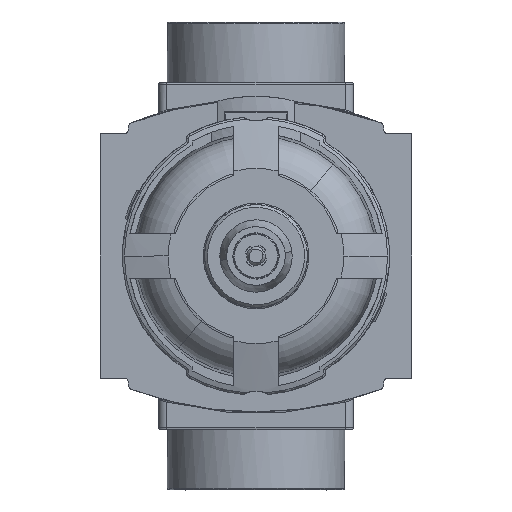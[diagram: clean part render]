
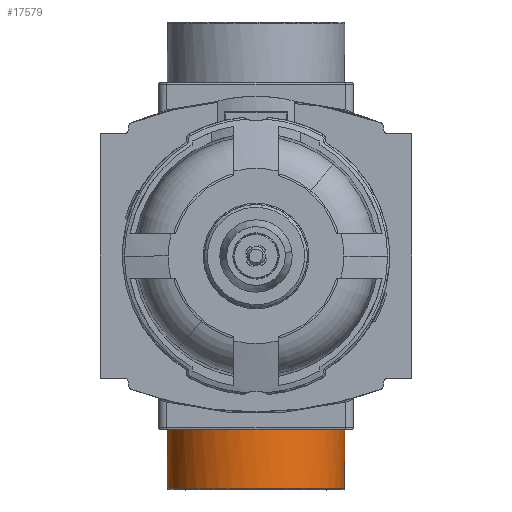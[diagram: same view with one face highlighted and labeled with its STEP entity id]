
A CAD part, front view. The second image highlights one B-rep face of the part: STEP entity #17579.
In plain terms, the highlighted cylindrical face has radius 15.95 mm (diameter 31.9 mm), a partial arc.
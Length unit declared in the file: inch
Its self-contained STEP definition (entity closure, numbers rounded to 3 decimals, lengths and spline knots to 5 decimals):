
#13176=CYLINDRICAL_SURFACE('',#43269,0.62795);
#14097=LINE('',#58333,#15709);
#14098=LINE('',#58346,#15710);
#15709=VECTOR('',#45801,1.);
#15710=VECTOR('',#45802,1.);
#17579=ADVANCED_FACE('',(#20172),#13176,.T.);
#20172=FACE_OUTER_BOUND('',#22168,.T.);
#22168=EDGE_LOOP('',(#25457,#25458,#25459,#25460));
#25457=ORIENTED_EDGE('',*,*,#36675,.F.);
#25458=ORIENTED_EDGE('',*,*,#36677,.T.);
#25459=ORIENTED_EDGE('',*,*,#36678,.F.);
#25460=ORIENTED_EDGE('',*,*,#36679,.T.);
#33478=VERTEX_POINT('',#58305);
#33479=VERTEX_POINT('',#58310);
#33480=VERTEX_POINT('',#58334);
#33481=VERTEX_POINT('',#58345);
#36675=EDGE_CURVE('',#33479,#33478,#40898,.T.);
#36677=EDGE_CURVE('',#33479,#33480,#14097,.T.);
#36678=EDGE_CURVE('',#33481,#33480,#40900,.T.);
#36679=EDGE_CURVE('',#33481,#33478,#14098,.T.);
#40898=B_SPLINE_CURVE_WITH_KNOTS('',3,(#58311,#58312,#58313,#58314,#58315,
#58316,#58317,#58318,#58319,#58320),.UNSPECIFIED.,.F.,.F.,(4,2,2,2,4),(0.,
0.25,0.5,0.75,1.),.UNSPECIFIED.);
#40900=B_SPLINE_CURVE_WITH_KNOTS('',3,(#58335,#58336,#58337,#58338,#58339,
#58340,#58341,#58342,#58343,#58344),.UNSPECIFIED.,.F.,.F.,(4,2,2,2,4),(0.,
0.25,0.5,0.75,1.),.UNSPECIFIED.);
#43269=AXIS2_PLACEMENT_3D('',#58347,#45803,#45804);
#45801=DIRECTION('',(0.,0.,1.));
#45802=DIRECTION('',(0.,0.,-1.));
#45803=DIRECTION('',(0.,0.,1.));
#45804=DIRECTION('',(1.,0.,0.));
#58305=CARTESIAN_POINT('',(-0.62795,1.3189,-1.6437));
#58310=CARTESIAN_POINT('',(0.62795,1.3189,-1.6437));
#58311=CARTESIAN_POINT('',(0.62795,1.3189,-1.6437));
#58312=CARTESIAN_POINT('',(0.62795,1.1545,-1.6437));
#58313=CARTESIAN_POINT('',(0.56028,0.99111,-1.6437));
#58314=CARTESIAN_POINT('',(0.32778,0.75862,-1.6437));
#58315=CARTESIAN_POINT('',(0.1644,0.69094,-1.6437));
#58316=CARTESIAN_POINT('',(-0.1644,0.69094,-1.6437));
#58317=CARTESIAN_POINT('',(-0.32778,0.75862,-1.6437));
#58318=CARTESIAN_POINT('',(-0.56028,0.99111,-1.6437));
#58319=CARTESIAN_POINT('',(-0.62795,1.1545,-1.6437));
#58320=CARTESIAN_POINT('',(-0.62795,1.3189,-1.6437));
#58333=CARTESIAN_POINT('',(0.62795,1.3189,-236222.11614));
#58334=CARTESIAN_POINT('',(0.62795,1.3189,-1.22835));
#58335=CARTESIAN_POINT('',(-0.62795,1.3189,-1.22835));
#58336=CARTESIAN_POINT('',(-0.62794,1.15414,-1.22835));
#58337=CARTESIAN_POINT('',(-0.56028,0.99113,-1.22835));
#58338=CARTESIAN_POINT('',(-0.32777,0.75861,-1.22835));
#58339=CARTESIAN_POINT('',(-0.16441,0.69095,-1.22835));
#58340=CARTESIAN_POINT('',(0.16441,0.69094,-1.22835));
#58341=CARTESIAN_POINT('',(0.32777,0.75861,-1.22835));
#58342=CARTESIAN_POINT('',(0.56029,0.99112,-1.22835));
#58343=CARTESIAN_POINT('',(0.62794,1.15408,-1.22835));
#58344=CARTESIAN_POINT('',(0.62795,1.3189,-1.22835));
#58345=CARTESIAN_POINT('',(-0.62795,1.3189,-1.22835));
#58346=CARTESIAN_POINT('',(-0.62795,1.3189,-236222.11614));
#58347=CARTESIAN_POINT('',(0.,1.3189,-236222.11614));
